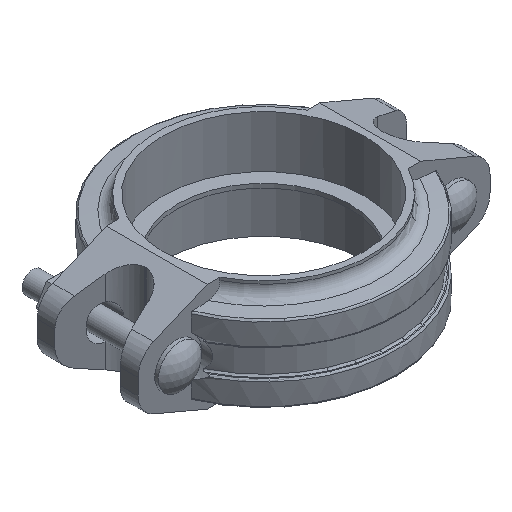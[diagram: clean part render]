
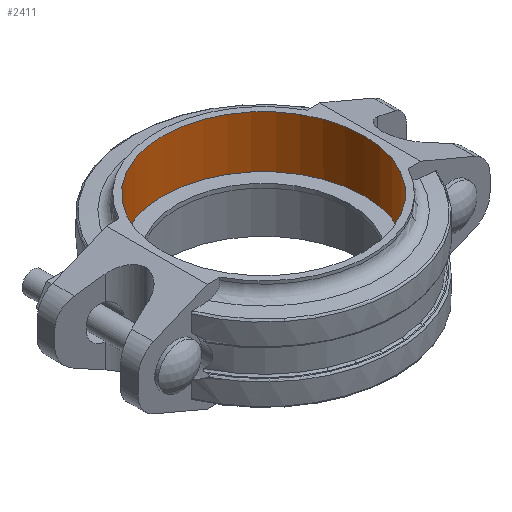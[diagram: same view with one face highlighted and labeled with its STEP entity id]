
A CAD part, isometric view. The second image highlights one B-rep face of the part: STEP entity #2411.
In plain terms, the highlighted cylindrical face has radius 44.45 mm (diameter 88.9 mm), a full revolution.
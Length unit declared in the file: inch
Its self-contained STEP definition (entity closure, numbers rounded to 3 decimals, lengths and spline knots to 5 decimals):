
#224=FACE_OUTER_BOUND('',#347,.T.);
#347=EDGE_LOOP('',(#1538,#1539,#1540,#1541,#1542,#1543));
#478=LINE('',#3505,#657);
#657=VECTOR('',#2824,1.75);
#839=CIRCLE('',#2556,1.75);
#840=CIRCLE('',#2557,1.75);
#841=CIRCLE('',#2559,1.75);
#842=CIRCLE('',#2560,1.75);
#933=VERTEX_POINT('',#3499);
#934=VERTEX_POINT('',#3500);
#935=VERTEX_POINT('',#3504);
#936=VERTEX_POINT('',#3506);
#1176=EDGE_CURVE('',#933,#934,#839,.T.);
#1177=EDGE_CURVE('',#934,#933,#840,.T.);
#1178=EDGE_CURVE('',#934,#935,#478,.T.);
#1179=EDGE_CURVE('',#936,#935,#841,.T.);
#1180=EDGE_CURVE('',#935,#936,#842,.T.);
#1538=ORIENTED_EDGE('',*,*,#1176,.T.);
#1539=ORIENTED_EDGE('',*,*,#1178,.T.);
#1540=ORIENTED_EDGE('',*,*,#1179,.F.);
#1541=ORIENTED_EDGE('',*,*,#1180,.F.);
#1542=ORIENTED_EDGE('',*,*,#1178,.F.);
#1543=ORIENTED_EDGE('',*,*,#1177,.T.);
#2243=CYLINDRICAL_SURFACE('',#2558,1.75);
#2411=ADVANCED_FACE('',(#224),#2243,.F.);
#2556=AXIS2_PLACEMENT_3D('',#3501,#2818,#2819);
#2557=AXIS2_PLACEMENT_3D('',#3502,#2820,#2821);
#2558=AXIS2_PLACEMENT_3D('',#3503,#2822,#2823);
#2559=AXIS2_PLACEMENT_3D('',#3507,#2825,#2826);
#2560=AXIS2_PLACEMENT_3D('',#3508,#2827,#2828);
#2818=DIRECTION('center_axis',(0.,0.,-1.));
#2819=DIRECTION('ref_axis',(0.,-1.,0.));
#2820=DIRECTION('center_axis',(0.,0.,-1.));
#2821=DIRECTION('ref_axis',(0.,-1.,0.));
#2822=DIRECTION('center_axis',(0.,0.,-1.));
#2823=DIRECTION('ref_axis',(0.,-1.,0.));
#2824=DIRECTION('',(0.,0.,1.));
#2825=DIRECTION('center_axis',(0.,0.,-1.));
#2826=DIRECTION('ref_axis',(-1.,0.,0.));
#2827=DIRECTION('center_axis',(0.,0.,-1.));
#2828=DIRECTION('ref_axis',(-1.,0.,0.));
#3499=CARTESIAN_POINT('',(-1.75,0.,0.035));
#3500=CARTESIAN_POINT('',(0.,1.75,0.035));
#3501=CARTESIAN_POINT('Origin',(0.,0.,0.035));
#3502=CARTESIAN_POINT('Origin',(0.,0.,0.035));
#3503=CARTESIAN_POINT('Origin',(0.,0.,0.));
#3504=CARTESIAN_POINT('',(0.,1.75,0.94));
#3505=CARTESIAN_POINT('',(0.,1.75,0.));
#3506=CARTESIAN_POINT('',(1.51265,0.88,0.94));
#3507=CARTESIAN_POINT('Origin',(0.,0.,0.94));
#3508=CARTESIAN_POINT('Origin',(0.,0.,0.94));
